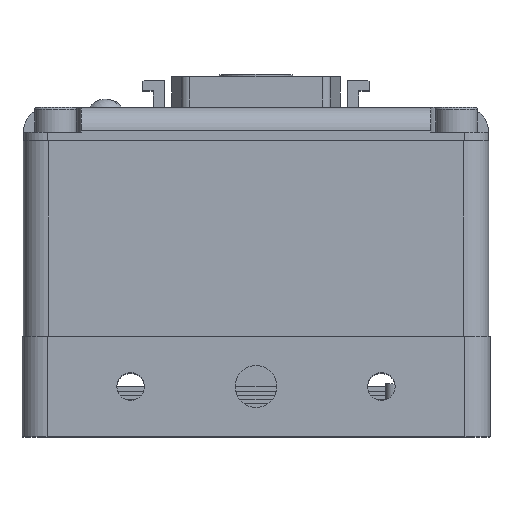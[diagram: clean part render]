
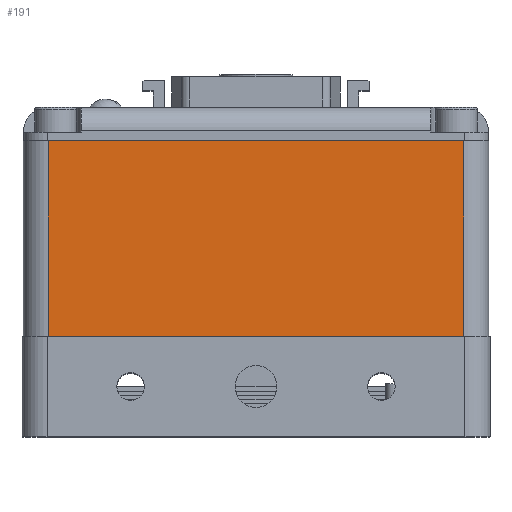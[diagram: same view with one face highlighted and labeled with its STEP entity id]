
A CAD part, top view. The second image highlights one B-rep face of the part: STEP entity #191.
In plain terms, the highlighted planar face has unit normal (0, 0, -1).
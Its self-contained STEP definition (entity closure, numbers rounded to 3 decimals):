
#191 = ADVANCED_FACE ( 'NONE', ( #8019 ), #1456, .T. ) ;
#748 = EDGE_CURVE ( 'NONE', #5980, #5961, #8222, .T. ) ;
#749 = EDGE_CURVE ( 'NONE', #5975, #5980, #8220, .T. ) ;
#756 = EDGE_CURVE ( 'NONE', #5963, #5975, #8235, .T. ) ;
#773 = EDGE_CURVE ( 'NONE', #5961, #5963, #8255, .T. ) ;
#841 = EDGE_LOOP ( 'NONE', ( #1047, #1045, #8740, #8739 ) ) ;
#1045 = ORIENTED_EDGE ( 'NONE', *, *, #756, .T. ) ;
#1047 = ORIENTED_EDGE ( 'NONE', *, *, #773, .T. ) ;
#1442 = DIRECTION ( 'NONE',  ( -1., 0., 0. ) ) ;
#1445 = DIRECTION ( 'NONE',  ( 0., 0., -1. ) ) ;
#1456 = PLANE ( 'NONE',  #8980 ) ;
#1469 = CARTESIAN_POINT ( 'NONE',  ( -24.502, 3.318, 29.85 ) ) ;
#1933 = CARTESIAN_POINT ( 'NONE',  ( -21.502, 3.318, 29.85 ) ) ;
#1955 = DIRECTION ( 'NONE',  ( 0., 1., 0. ) ) ;
#2054 = DIRECTION ( 'NONE',  ( 1., 0., 0. ) ) ;
#2055 = CARTESIAN_POINT ( 'NONE',  ( 3.348, 26.718, 29.85 ) ) ;
#2091 = DIRECTION ( 'NONE',  ( 0., -1., 0. ) ) ;
#2092 = DIRECTION ( 'NONE',  ( -1., 0., 0. ) ) ;
#2097 = CARTESIAN_POINT ( 'NONE',  ( -24.502, 3.318, 29.85 ) ) ;
#2105 = CARTESIAN_POINT ( 'NONE',  ( 28.198, 3.318, 29.85 ) ) ;
#2418 = CARTESIAN_POINT ( 'NONE',  ( -21.502, 3.318, 29.85 ) ) ;
#2486 = CARTESIAN_POINT ( 'NONE',  ( 28.198, 3.318, 29.85 ) ) ;
#2494 = CARTESIAN_POINT ( 'NONE',  ( 28.198, 26.718, 29.85 ) ) ;
#2523 = CARTESIAN_POINT ( 'NONE',  ( -21.502, 26.718, 29.85 ) ) ;
#5961 = VERTEX_POINT ( 'NONE', #2418 ) ;
#5963 = VERTEX_POINT ( 'NONE', #2523 ) ;
#5975 = VERTEX_POINT ( 'NONE', #2494 ) ;
#5980 = VERTEX_POINT ( 'NONE', #2486 ) ;
#8019 = FACE_OUTER_BOUND ( 'NONE', #841, .T. ) ;
#8220 = LINE ( 'NONE', #2105, #8227 ) ;
#8222 = LINE ( 'NONE', #2097, #8225 ) ;
#8225 = VECTOR ( 'NONE', #2092, 1000. ) ;
#8227 = VECTOR ( 'NONE', #2091, 1000. ) ;
#8235 = LINE ( 'NONE', #2055, #8238 ) ;
#8238 = VECTOR ( 'NONE', #2054, 1000. ) ;
#8255 = LINE ( 'NONE', #1933, #8259 ) ;
#8259 = VECTOR ( 'NONE', #1955, 1000. ) ;
#8739 = ORIENTED_EDGE ( 'NONE', *, *, #748, .T. ) ;
#8740 = ORIENTED_EDGE ( 'NONE', *, *, #749, .T. ) ;
#8980 = AXIS2_PLACEMENT_3D ( 'NONE', #1469, #1445, #1442 ) ;
